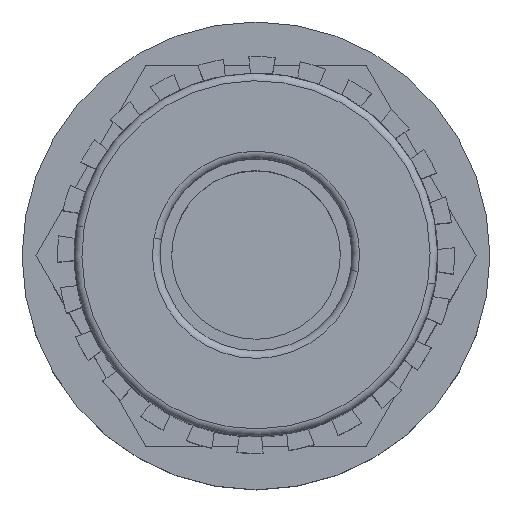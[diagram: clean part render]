
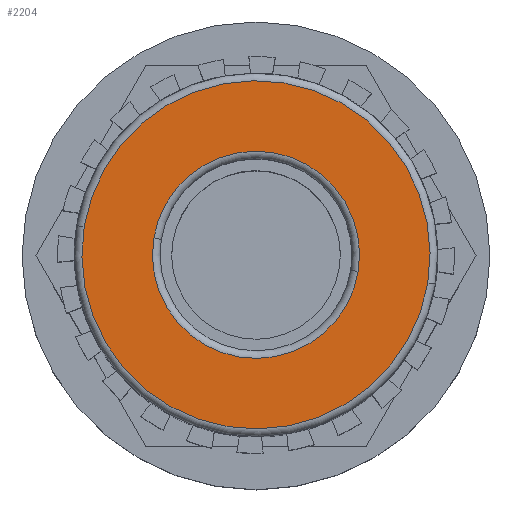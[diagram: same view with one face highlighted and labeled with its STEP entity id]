
A CAD part, top view. The second image highlights one B-rep face of the part: STEP entity #2204.
In plain terms, the highlighted planar face has unit normal (0, 0, 1).
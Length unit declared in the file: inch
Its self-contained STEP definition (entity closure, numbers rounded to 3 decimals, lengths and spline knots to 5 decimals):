
#86 = CIRCLE ( 'NONE', #1889, 0.54333 ) ;
#330 = CIRCLE ( 'NONE', #1890, 0.91333 ) ;
#694 = EDGE_CURVE ( 'NONE', #1492, #1482, #86, .T. ) ;
#695 = EDGE_CURVE ( 'NONE', #1499, #1529, #330, .T. ) ;
#827 = EDGE_CURVE ( 'NONE', #1482, #1492, #2852, .T. ) ;
#833 = EDGE_CURVE ( 'NONE', #1529, #1499, #2857, .T. ) ;
#1094 = AXIS2_PLACEMENT_3D ( 'NONE', #2652, #2653, #2654 ) ;
#1098 = AXIS2_PLACEMENT_3D ( 'NONE', #2666, #2667, #2668 ) ;
#1482 = VERTEX_POINT ( 'NONE', #3668 ) ;
#1492 = VERTEX_POINT ( 'NONE', #3678 ) ;
#1499 = VERTEX_POINT ( 'NONE', #3685 ) ;
#1529 = VERTEX_POINT ( 'NONE', #3715 ) ;
#1581 = EDGE_LOOP ( 'NONE', ( #1957, #1958 ) ) ;
#1582 = EDGE_LOOP ( 'NONE', ( #1932, #1955 ) ) ;
#1889 = AXIS2_PLACEMENT_3D ( 'NONE', #2456, #2457, #2458 ) ;
#1890 = AXIS2_PLACEMENT_3D ( 'NONE', #2459, #2460, #2461 ) ;
#1932 = ORIENTED_EDGE ( 'NONE', *, *, #827, .T. ) ;
#1955 = ORIENTED_EDGE ( 'NONE', *, *, #694, .T. ) ;
#1957 = ORIENTED_EDGE ( 'NONE', *, *, #695, .T. ) ;
#1958 = ORIENTED_EDGE ( 'NONE', *, *, #833, .T. ) ;
#2204 = ADVANCED_FACE ( 'NONE', ( #3297, #3301 ), #4173, .F. ) ;
#2456 = CARTESIAN_POINT ( 'NONE',  ( -3.62881, -0.23062, 3.17543 ) ) ;
#2457 = DIRECTION ( 'NONE',  ( 0., 0., -1. ) ) ;
#2458 = DIRECTION ( 'NONE',  ( -0.987, 0.161, 0. ) ) ;
#2459 = CARTESIAN_POINT ( 'NONE',  ( -3.62881, -0.23062, 3.17543 ) ) ;
#2460 = DIRECTION ( 'NONE',  ( 0., 0., 1. ) ) ;
#2461 = DIRECTION ( 'NONE',  ( -0.987, 0.161, 0. ) ) ;
#2652 = CARTESIAN_POINT ( 'NONE',  ( -3.62881, -0.23062, 3.17543 ) ) ;
#2653 = DIRECTION ( 'NONE',  ( 0., 0., -1. ) ) ;
#2654 = DIRECTION ( 'NONE',  ( -0.987, 0.161, 0. ) ) ;
#2666 = CARTESIAN_POINT ( 'NONE',  ( -3.62881, -0.23062, 3.17543 ) ) ;
#2667 = DIRECTION ( 'NONE',  ( 0., 0., 1. ) ) ;
#2668 = DIRECTION ( 'NONE',  ( -0.987, 0.161, 0. ) ) ;
#2703 = AXIS2_PLACEMENT_3D ( 'NONE', #4171, #4170, #4175 ) ;
#2852 = CIRCLE ( 'NONE', #1094, 0.54333 ) ;
#2857 = CIRCLE ( 'NONE', #1098, 0.91333 ) ;
#3297 = FACE_BOUND ( 'NONE', #1582, .T. ) ;
#3301 = FACE_OUTER_BOUND ( 'NONE', #1581, .T. ) ;
#3668 = CARTESIAN_POINT ( 'NONE',  ( -4.16508, -0.14333, 3.17543 ) ) ;
#3678 = CARTESIAN_POINT ( 'NONE',  ( -3.09253, -0.31791, 3.17543 ) ) ;
#3685 = CARTESIAN_POINT ( 'NONE',  ( -4.53028, -0.08389, 3.17543 ) ) ;
#3715 = CARTESIAN_POINT ( 'NONE',  ( -2.72734, -0.37735, 3.17543 ) ) ;
#4170 = DIRECTION ( 'NONE',  ( 0., 0., -1. ) ) ;
#4171 = CARTESIAN_POINT ( 'NONE',  ( -3.62881, -0.23062, 3.17543 ) ) ;
#4173 = PLANE ( 'NONE',  #2703 ) ;
#4175 = DIRECTION ( 'NONE',  ( -0.987, 0.161, 0. ) ) ;
